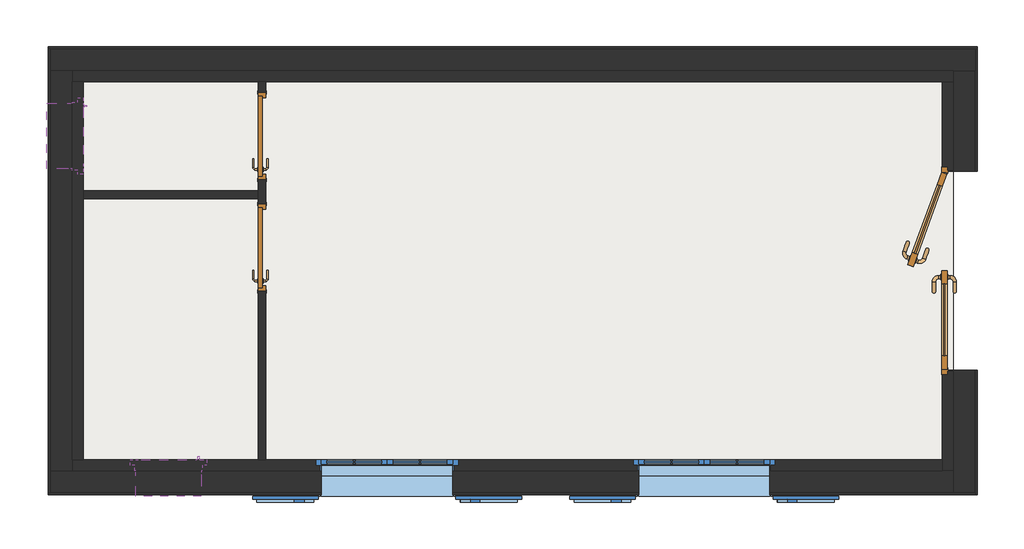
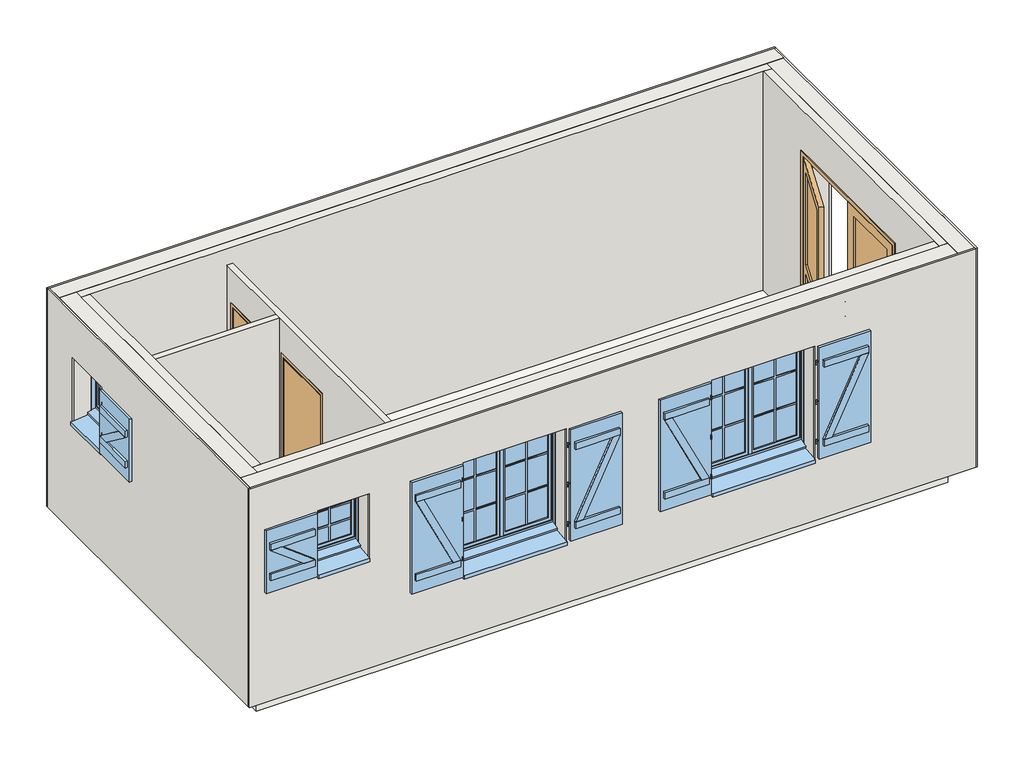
# One storey: 6 walls, 4 windows, 3 doors, 1 slab.
"""IFC4 building model written with IfcOpenShell, lengths in millimetres."""

from ifc_helpers import new_model, si_unit, frame, origin, origin_with_axes, place, context, project, spatial, polyline, outline, extrude, faceted_brep, transform, mapped, element, save
from components import ext_double_4d125d60, int_simple_pp_0_73m_x_2_04m_d65dadfb, window_c6c463f3, window_6c080f1b, window_058ce6a6

model = new_model("IFC4")

# Units and contexts
model_context = context("Model", 3, world=origin())
ifc_project = project(units=[si_unit("LENGTHUNIT", "METRE", prefix="MILLI")], contexts=[model_context])

# Site, building, storey
site = spatial("IfcSite", under=ifc_project)
building = spatial("IfcBuilding", under=site)
storey = spatial("IfcBuildingStorey", under=building, Name="02 Rez de chaussée", Elevation=0.0)

# Doors
placement = place(None, origin())
ext_double_shape = ext_double_4d125d60(model_context)
element("IfcDoor", 1, ObjectType="Ext. Double : Vitrée avec traverse - 1.80 m x 2.15 m", at=placement, inside=storey, context=model_context, shape_type="MappedRepresentation", body=[
    mapped(ext_double_shape, transform((-40.0, 1920.0, 0.0), x_axis=(0.0, -1.0, 0.0), y_axis=(1.0, 0.0, 0.0), z_axis=(0.0, 0.0, 1.0))),
])
int_simple_pp_0_73m_x_2_04m_shape = int_simple_pp_0_73m_x_2_04m_d65dadfb(model_context)
element("IfcDoor", 2, ObjectType="Int. Simple : PP (0.73m x 2.04m)", at=placement, inside=storey, context=model_context, shape_type="MappedRepresentation", body=[
    mapped(int_simple_pp_0_73m_x_2_04m_shape, transform((-6425.0, 3195.0, 0.0), x_axis=(0.0, 1.0, 0.0), y_axis=(-1.0, 0.0, 0.0), z_axis=(0.0, 0.0, 1.0))),
])
element("IfcDoor", 3, ObjectType="Int. Simple : PP (0.73m x 2.04m)", at=placement, inside=storey, context=model_context, shape_type="MappedRepresentation", body=[
    mapped(int_simple_pp_0_73m_x_2_04m_shape, transform((-6425.0, 2175.0, 0.0), x_axis=(0.0, 1.0, 0.0), y_axis=(-1.0, 0.0, 0.0), z_axis=(0.0, 0.0, 1.0))),
])

# Slab
element("IfcSlab", 4, ObjectType="Dalle en béton - 250 mm", at=placement, inside=storey, context=model_context, shape_type="SweptSolid", body=[
    extrude(outline(polyline([(-100.0, 3760.0), (-100.0, 103.3971219), (-8168.0826851, 103.3971219), (-8168.0826851, 3760.0), (-100.0, 3760.0)])), frame((0.0, 0.0, -250.0), z_axis=(0.0, 0.0, 1.0), x_axis=(1.0, 0.0, 0.0)), (0.0, 0.0, 1.0), 250.0),
])

# Walls
element("IfcWall", 5, ObjectType="Int. Plâtre 70 mm", at=placement, inside=storey, context=model_context, shape_type="Brep", body=[
    faceted_brep([(-6460.0, 200.0, 0.0), (-6460.0, 200.0, 2500.0), (-6460.0, 2590.0, 2500.0), (-6460.0, 2660.0, 2500.0), (-6460.0, 3660.0, 2500.0), (-6460.0, 3660.0, 0.0), (-6460.0, 3560.0, 0.0), (-6460.0, 3560.0, 2075.0), (-6460.0, 2760.0, 2075.0), (-6460.0, 2760.0, 0.0), (-6460.0, 2660.0, 0.0), (-6460.0, 2590.0, 0.0), (-6460.0, 2540.0, 0.0), (-6460.0, 2540.0, 2075.0), (-6460.0, 1740.0, 2075.0), (-6460.0, 1740.0, 0.0), (-6390.0, 200.0, 2500.0), (-6390.0, 200.0, 0.0), (-6390.0, 1740.0, 0.0), (-6390.0, 1740.0, 2075.0), (-6390.0, 2540.0, 2075.0), (-6390.0, 2540.0, 0.0), (-6390.0, 2760.0, 0.0), (-6390.0, 2760.0, 2075.0), (-6390.0, 3560.0, 2075.0), (-6390.0, 3560.0, 0.0), (-6390.0, 3660.0, 0.0), (-6390.0, 3660.0, 2500.0)], [[[0, 1, 2, 3, 4, 5, 6, 7, 8, 9, 10, 11, 12, 13, 14, 15]], [[16, 17, 18, 19, 20, 21, 22, 23, 24, 25, 26, 27]], [[17, 0, 15, 18]], [[5, 26, 25, 6]], [[9, 22, 21, 12, 11, 10]], [[1, 0, 17, 16]], [[4, 3, 2, 1, 16, 27]], [[5, 4, 27, 26]], [[24, 7, 6, 25]], [[7, 24, 23, 8]], [[8, 23, 22, 9]], [[20, 13, 12, 21]], [[13, 20, 19, 14]], [[14, 19, 18, 15]]]),
])
element("IfcWall", 6, ObjectType="Int. Plâtre 70 mm", at=placement, inside=storey, context=model_context, shape_type="SweptSolid", body=[
    extrude(outline(polyline([(-6460.0, 2590.0), (-8060.0, 2590.0), (-8060.0, 2660.0), (-6460.0, 2660.0), (-6460.0, 2590.0)])), origin_with_axes(), (0.0, 0.0, 1.0), 2500.0),
])
element("IfcWall", 7, ObjectType="Ext. Enduit 2 + BBM 20 + Isolant 10", at=placement, inside=storey, context=model_context, shape_type="SolidModel", body=[
    extrude(outline(polyline([(-8380.0, 3980.0), (120.0, 3980.0), (120.0, 3960.0), (-8380.0, 3960.0), (-8380.0, 3980.0)])), origin_with_axes(), (0.0, 0.0, 1.0), 2700.0),
    faceted_brep([(-8060.0, 3660.0, 0.0), (-8160.0, 3660.0, 0.0), (-8160.0, 3760.0, 0.0), (-100.0, 3760.0, 0.0), (-100.0, 3660.0, 0.0), (-200.0, 3660.0, 0.0), (-200.0, 3660.0, 2700.0), (-100.0, 3660.0, 2700.0), (-100.0, 3760.0, 2700.0), (-8160.0, 3760.0, 2700.0), (-8160.0, 3660.0, 2700.0), (-8060.0, 3660.0, 2700.0)], [[[0, 1, 2, 3, 4, 5]], [[6, 7, 8, 9, 10, 11]], [[3, 2, 9, 8]], [[1, 0, 5, 4, 7, 6, 11, 10]], [[7, 4, 3, 8]], [[1, 10, 9, 2]]]),
    extrude(outline(polyline([(-8360.0, 3760.0), (-8360.0, 3960.0), (100.0, 3960.0), (100.0, 3760.0), (-8360.0, 3760.0)])), origin_with_axes(), (0.0, 0.0, 1.0), 2700.0),
])
element("IfcWall", 8, ObjectType="Ext. Enduit 2 + BBM 20 + Isolant 10", at=placement, inside=storey, context=model_context, shape_type="SolidModel", body=[
    extrude(outline(polyline([(3960.0, 0.0), (2840.0, 0.0), (2840.0, 2160.0), (1020.0, 2160.0), (1020.0, 0.0), (-120.0, 0.0), (-120.0, 2700.0), (3960.0, 2700.0), (3960.0, 0.0)])), frame((100.0, 0.0, 0.0), z_axis=(1.0, 0.0, 0.0), x_axis=(0.0, 1.0, 0.0)), (0.0, 0.0, 1.0), 20.0),
    faceted_brep([(-200.0, 2880.0, 0.0), (-200.0, 3660.0, 0.0), (-100.0, 3660.0, 0.0), (-100.0, 2850.0, 0.0), (-150.0, 2850.0, 0.0), (-150.0, 2880.0, 0.0), (-200.0, 200.0, 2700.0), (-200.0, 100.0, 2700.0), (-100.0, 100.0, 2700.0), (-100.0, 3660.0, 2700.0), (-200.0, 3660.0, 2700.0), (-200.0, 200.0, 0.0), (-200.0, 980.0, 0.0), (-150.0, 980.0, 0.0), (-150.0, 1010.0, 0.0), (-100.0, 1010.0, 0.0), (-100.0, 100.0, 0.0), (-200.0, 100.0, 0.0), (-100.0, 1010.0, 2170.0), (-100.0, 2850.0, 2170.0), (-200.0, 2880.0, 2200.0), (-200.0, 980.0, 2200.0), (-150.0, 2850.0, 2170.0), (-150.0, 1010.0, 2170.0), (-150.0, 980.0, 2200.0), (-150.0, 2880.0, 2200.0)], [[[0, 1, 2, 3, 4, 5]], [[6, 7, 8, 9, 10]], [[1, 10, 9, 2]], [[11, 12, 13, 14, 15, 16, 17]], [[3, 2, 9, 8, 16, 15, 18, 19]], [[7, 6, 10, 1, 0, 20, 21, 12, 11, 17]], [[5, 4, 22, 23, 14, 13, 24, 25]], [[4, 3, 19, 22]], [[20, 0, 5, 25]], [[23, 22, 19, 18]], [[21, 20, 25, 24]], [[15, 14, 23, 18]], [[12, 21, 24, 13]], [[7, 17, 16, 8]]]),
    faceted_brep([(100.0, 2840.0, 0.0), (100.0, 3760.0, 0.0), (100.0, 3760.0, 2700.0), (100.0, -100.0, 2700.0), (100.0, -100.0, 0.0), (100.0, 1020.0, 0.0), (100.0, 1020.0, 2160.0), (100.0, 2840.0, 2160.0), (-100.0, 3760.0, 0.0), (-100.0, 2850.0, 0.0), (-100.0, 2840.0, 0.0), (-100.0, 2840.0, 2160.0), (-100.0, 1020.0, 2160.0), (-100.0, 1020.0, 0.0), (-100.0, 1010.0, 0.0), (-100.0, -100.0, 0.0), (-100.0, -100.0, 2700.0), (-100.0, 3760.0, 2700.0)], [[[0, 1, 2, 3, 4, 5, 6, 7]], [[8, 9, 10, 11, 12, 13, 14, 15, 16, 17]], [[8, 1, 0, 10, 9]], [[16, 3, 2, 17]], [[11, 7, 6, 12]], [[5, 13, 12, 6]], [[10, 0, 7, 11]], [[4, 15, 14, 13, 5]], [[1, 8, 17, 2]], [[15, 4, 3, 16]]]),
])
element("IfcWall", 9, ObjectType="Ext. Enduit 2 + BBM 20 + Isolant 10", at=placement, inside=storey, context=model_context, shape_type="SolidModel", body=[
    extrude(outline(polyline([(0.0, 100.0), (2700.0, 100.0), (2700.0, -8380.0), (0.0, -8380.0), (0.0, 100.0)]), holes=[polyline([(2150.0, -4680.0), (720.0, -4680.0), (720.0, -5880.0), (2150.0, -5880.0), (2150.0, -4680.0)]), polyline([(2150.0, -1780.0), (720.0, -1780.0), (720.0, -2980.0), (2150.0, -2980.0), (2150.0, -1780.0)]), polyline([(2150.0, -6980.0), (1320.0, -6980.0), (1320.0, -7580.0), (2150.0, -7580.0), (2150.0, -6980.0)])]), frame((0.0, -120.0, 0.0), z_axis=(0.0, 1.0, 0.0), x_axis=(0.0, 0.0, 1.0)), (0.0, 0.0, 1.0), 20.0),
    faceted_brep([(-8060.0, 200.0, 0.0), (-200.0, 200.0, 0.0), (-200.0, 100.0, 0.0), (-8160.0, 100.0, 0.0), (-8160.0, 200.0, 0.0), (-8060.0, 200.0, 2700.0), (-8160.0, 200.0, 2700.0), (-8160.0, 100.0, 2700.0), (-200.0, 100.0, 2700.0), (-200.0, 200.0, 2700.0), (-4680.0, 120.0, 800.0), (-4680.0, 120.0, 720.0), (-4680.0, 100.0, 720.0), (-4680.0, 100.0, 800.0), (-5880.0, 120.0, 720.0), (-5880.0, 120.0, 800.0), (-5880.0, 100.0, 800.0), (-5880.0, 100.0, 720.0), (-1780.0, 120.0, 800.0), (-1780.0, 120.0, 720.0), (-1780.0, 100.0, 720.0), (-1780.0, 100.0, 800.0), (-2980.0, 120.0, 720.0), (-2980.0, 120.0, 800.0), (-2980.0, 100.0, 800.0), (-2980.0, 100.0, 720.0), (-6980.0, 120.0, 1400.0), (-6980.0, 120.0, 1320.0), (-6980.0, 100.0, 1320.0), (-6980.0, 100.0, 1400.0), (-7580.0, 120.0, 1320.0), (-7580.0, 120.0, 1400.0), (-7580.0, 100.0, 1400.0), (-7580.0, 100.0, 1320.0), (-5890.0, 100.0, 800.0), (-5890.0, 100.0, 2160.0), (-4670.0, 100.0, 2160.0), (-4670.0, 100.0, 800.0), (-2990.0, 100.0, 800.0), (-2990.0, 100.0, 2160.0), (-1770.0, 100.0, 2160.0), (-1770.0, 100.0, 800.0), (-7590.0, 100.0, 1400.0), (-7590.0, 100.0, 2160.0), (-6970.0, 100.0, 2160.0), (-6970.0, 100.0, 1400.0), (-7630.0, 200.0, 1400.0), (-6930.0, 200.0, 1400.0), (-6930.0, 200.0, 2200.0), (-7630.0, 200.0, 2200.0), (-3030.0, 200.0, 800.0), (-1730.0, 200.0, 800.0), (-1730.0, 200.0, 2200.0), (-3030.0, 200.0, 2200.0), (-5930.0, 200.0, 800.0), (-4630.0, 200.0, 800.0), (-4630.0, 200.0, 2200.0), (-5930.0, 200.0, 2200.0), (-5930.0, 150.0, 800.0), (-5890.0, 150.0, 800.0), (-4670.0, 150.0, 800.0), (-4630.0, 150.0, 800.0), (-4630.0, 150.0, 2200.0), (-4670.0, 150.0, 2160.0), (-5890.0, 150.0, 2160.0), (-5930.0, 150.0, 2200.0), (-3030.0, 150.0, 800.0), (-2990.0, 150.0, 800.0), (-1770.0, 150.0, 800.0), (-1730.0, 150.0, 800.0), (-1730.0, 150.0, 2200.0), (-1770.0, 150.0, 2160.0), (-2990.0, 150.0, 2160.0), (-3030.0, 150.0, 2200.0), (-7630.0, 150.0, 1400.0), (-7590.0, 150.0, 1400.0), (-6970.0, 150.0, 1400.0), (-6930.0, 150.0, 1400.0), (-6930.0, 150.0, 2200.0), (-6970.0, 150.0, 2160.0), (-7590.0, 150.0, 2160.0), (-7630.0, 150.0, 2200.0)], [[[0, 1, 2, 3, 4]], [[5, 6, 7, 8, 9]], [[1, 9, 8, 2]], [[10, 11, 12, 13]], [[14, 15, 16, 17]], [[11, 14, 17, 12]], [[18, 19, 20, 21]], [[22, 23, 24, 25]], [[19, 22, 25, 20]], [[26, 27, 28, 29]], [[30, 31, 32, 33]], [[27, 30, 33, 28]], [[3, 2, 8, 7], [13, 12, 17, 16, 34, 35, 36, 37], [21, 20, 25, 24, 38, 39, 40, 41], [29, 28, 33, 32, 42, 43, 44, 45]], [[1, 0, 4, 6, 5, 9], [46, 47, 48, 49], [50, 51, 52, 53], [54, 55, 56, 57]], [[11, 10, 15, 14]], [[55, 54, 58, 59, 34, 16, 15, 10, 13, 37, 60, 61]], [[56, 55, 61, 62]], [[61, 60, 63, 64, 59, 58, 65, 62]], [[60, 37, 36, 63]], [[57, 56, 62, 65]], [[64, 63, 36, 35]], [[54, 57, 65, 58]], [[34, 59, 64, 35]], [[19, 18, 23, 22]], [[51, 50, 66, 67, 38, 24, 23, 18, 21, 41, 68, 69]], [[52, 51, 69, 70]], [[69, 68, 71, 72, 67, 66, 73, 70]], [[68, 41, 40, 71]], [[53, 52, 70, 73]], [[72, 71, 40, 39]], [[50, 53, 73, 66]], [[38, 67, 72, 39]], [[27, 26, 31, 30]], [[47, 46, 74, 75, 42, 32, 31, 26, 29, 45, 76, 77]], [[48, 47, 77, 78]], [[77, 76, 79, 80, 75, 74, 81, 78]], [[76, 45, 44, 79]], [[49, 48, 78, 81]], [[80, 79, 44, 43]], [[46, 49, 81, 74]], [[42, 75, 80, 43]], [[6, 4, 3, 7]]]),
    faceted_brep([(-8360.0, -100.0, 0.0), (-100.0, -100.0, 0.0), (-100.0, -100.0, 2700.0), (-8360.0, -100.0, 2700.0), (-6980.0, -100.0, 2150.0), (-6980.0, -100.0, 1320.0), (-7580.0, -100.0, 1320.0), (-7580.0, -100.0, 2150.0), (-1780.0, -100.0, 2150.0), (-1780.0, -100.0, 720.0), (-2980.0, -100.0, 720.0), (-2980.0, -100.0, 2150.0), (-4680.0, -100.0, 2150.0), (-4680.0, -100.0, 720.0), (-5880.0, -100.0, 720.0), (-5880.0, -100.0, 2150.0), (-100.0, 100.0, 0.0), (-8360.0, 100.0, 0.0), (-8360.0, 100.0, 2700.0), (-100.0, 100.0, 2700.0), (-6980.0, 100.0, 1320.0), (-6980.0, 100.0, 1400.0), (-6980.0, 100.0, 2150.0), (-7580.0, 100.0, 2150.0), (-7580.0, 100.0, 1400.0), (-7580.0, 100.0, 1320.0), (-1780.0, 100.0, 720.0), (-1780.0, 100.0, 800.0), (-1780.0, 100.0, 2150.0), (-2980.0, 100.0, 2150.0), (-2980.0, 100.0, 800.0), (-2980.0, 100.0, 720.0), (-4680.0, 100.0, 720.0), (-4680.0, 100.0, 800.0), (-4680.0, 100.0, 2150.0), (-5880.0, 100.0, 2150.0), (-5880.0, 100.0, 800.0), (-5880.0, 100.0, 720.0)], [[[0, 1, 2, 3], [4, 5, 6, 7], [8, 9, 10, 11], [12, 13, 14, 15]], [[16, 17, 18, 19], [20, 21, 22, 23, 24, 25], [26, 27, 28, 29, 30, 31], [32, 33, 34, 35, 36, 37]], [[16, 1, 0, 17]], [[18, 3, 2, 19]], [[32, 13, 12, 34, 33]], [[35, 15, 14, 37, 36]], [[13, 32, 37, 14]], [[34, 12, 15, 35]], [[26, 9, 8, 28, 27]], [[29, 11, 10, 31, 30]], [[9, 26, 31, 10]], [[28, 8, 11, 29]], [[20, 5, 4, 22, 21]], [[23, 7, 6, 25, 24]], [[5, 20, 25, 6]], [[22, 4, 7, 23]], [[1, 16, 19, 2]], [[17, 0, 3, 18]]]),
])
element("IfcWall", 10, ObjectType="Ext. Enduit 2 + BBM 20 + Isolant 10", at=placement, inside=storey, context=model_context, shape_type="SolidModel", body=[
    extrude(outline(polyline([(-100.0, 0.0), (-100.0, 2700.0), (3960.0, 2700.0), (3960.0, 0.0), (-100.0, 0.0)]), holes=[polyline([(3460.0, 1320.0), (3460.0, 2150.0), (2860.0, 2150.0), (2860.0, 1320.0), (3460.0, 1320.0)])]), frame((-8380.0, 0.0, 0.0), z_axis=(1.0, 0.0, 0.0), x_axis=(0.0, 1.0, 0.0)), (0.0, 0.0, 1.0), 20.0),
    faceted_brep([(-8060.0, 3660.0, 0.0), (-8060.0, 200.0, 0.0), (-8160.0, 200.0, 0.0), (-8160.0, 3660.0, 0.0), (-8060.0, 200.0, 2700.0), (-8060.0, 3660.0, 2700.0), (-8160.0, 3660.0, 2700.0), (-8160.0, 200.0, 2700.0), (-8140.0, 3460.0, 1400.0), (-8160.0, 3460.0, 1400.0), (-8160.0, 3460.0, 1320.0), (-8140.0, 3460.0, 1320.0), (-8160.0, 2860.0, 1400.0), (-8140.0, 2860.0, 1400.0), (-8140.0, 2860.0, 1320.0), (-8160.0, 2860.0, 1320.0), (-8160.0, 3470.0, 1400.0), (-8160.0, 3470.0, 2160.0), (-8160.0, 2850.0, 2160.0), (-8160.0, 2850.0, 1400.0), (-8060.0, 3510.0, 1400.0), (-8060.0, 2810.0, 1400.0), (-8060.0, 2810.0, 2200.0), (-8060.0, 3510.0, 2200.0), (-8110.0, 3510.0, 1400.0), (-8110.0, 3470.0, 1400.0), (-8110.0, 2850.0, 1400.0), (-8110.0, 2810.0, 1400.0), (-8110.0, 3510.0, 2200.0), (-8110.0, 2850.0, 2160.0), (-8110.0, 3470.0, 2160.0), (-8110.0, 2810.0, 2200.0)], [[[0, 1, 2, 3]], [[4, 5, 6, 7]], [[5, 0, 3, 6]], [[1, 4, 7, 2]], [[8, 9, 10, 11]], [[12, 13, 14, 15]], [[14, 11, 10, 15]], [[3, 2, 7, 6], [10, 9, 16, 17, 18, 19, 12, 15]], [[1, 0, 5, 4], [20, 21, 22, 23]], [[8, 11, 14, 13]], [[21, 20, 24, 25, 16, 9, 8, 13, 12, 19, 26, 27]], [[20, 23, 28, 24]], [[27, 26, 29, 30, 25, 24, 28, 31]], [[16, 25, 30, 17]], [[23, 22, 31, 28]], [[30, 29, 18, 17]], [[22, 21, 27, 31]], [[26, 19, 18, 29]]]),
    faceted_brep([(-8360.0, 3760.0, 0.0), (-8360.0, 100.0, 0.0), (-8360.0, 100.0, 2700.0), (-8360.0, 3760.0, 2700.0), (-8360.0, 3460.0, 1320.0), (-8360.0, 3460.0, 2150.0), (-8360.0, 2860.0, 2150.0), (-8360.0, 2860.0, 1320.0), (-8160.0, 100.0, 0.0), (-8160.0, 3760.0, 0.0), (-8160.0, 3760.0, 2700.0), (-8160.0, 100.0, 2700.0), (-8160.0, 3460.0, 1400.0), (-8160.0, 3460.0, 1320.0), (-8160.0, 2860.0, 1320.0), (-8160.0, 2860.0, 1400.0), (-8160.0, 2860.0, 2150.0), (-8160.0, 3460.0, 2150.0)], [[[0, 1, 2, 3], [4, 5, 6, 7]], [[8, 9, 10, 11], [12, 13, 14, 15, 16, 17]], [[8, 1, 0, 9]], [[10, 3, 2, 11]], [[17, 5, 4, 13, 12]], [[14, 7, 6, 16, 15]], [[13, 4, 7, 14]], [[5, 17, 16, 6]], [[1, 8, 11, 2]], [[9, 0, 3, 10]]]),
])

# Windows
window_shape = window_c6c463f3(model_context)
element("IfcWindow", 11, ObjectType="1 Vantail droit - Volet et petits bois : 0.60m x 0.75m - Appui Béton", at=placement, inside=storey, context=model_context, shape_type="MappedRepresentation", body=[
    mapped(window_shape, transform((-7280.0, 40.0, 600.0), x_axis=(-1.0, 0.0, 0.0), y_axis=(0.0, -1.0, 0.0), z_axis=(0.0, 0.0, 1.0))),
])
window_2_shape = window_6c080f1b(model_context)
element("IfcWindow", 12, ObjectType="2 Vantaux droits - Volets et petits bois : 1.20m x 1.35m - Appui Béton", at=placement, inside=storey, context=model_context, shape_type="MappedRepresentation", body=[
    mapped(window_2_shape, transform((-5280.0, 40.0, 0.0), x_axis=(-1.0, 0.0, 0.0), y_axis=(0.0, -1.0, 0.0), z_axis=(0.0, 0.0, 1.0))),
])
element("IfcWindow", 13, ObjectType="2 Vantaux droits - Volets et petits bois : 1.20m x 1.35m - Appui Béton", at=placement, inside=storey, context=model_context, shape_type="MappedRepresentation", body=[
    mapped(window_2_shape, transform((-2380.0, 40.0, 0.0), x_axis=(-1.0, 0.0, 0.0), y_axis=(0.0, -1.0, 0.0), z_axis=(0.0, 0.0, 1.0))),
])
window_3_shape = window_058ce6a6(model_context)
element("IfcWindow", 14, ObjectType="1 Vantail droit - Volet et petits bois : 0.60m x 0.75m - Appui Béton", at=placement, inside=storey, context=model_context, shape_type="MappedRepresentation", body=[
    mapped(window_3_shape, transform((-8220.0, 3160.0, 600.0), x_axis=(0.0, -1.0, 0.0), y_axis=(1.0, 0.0, 0.0), z_axis=(0.0, 0.0, 1.0))),
])

save(model, "model.ifc")
